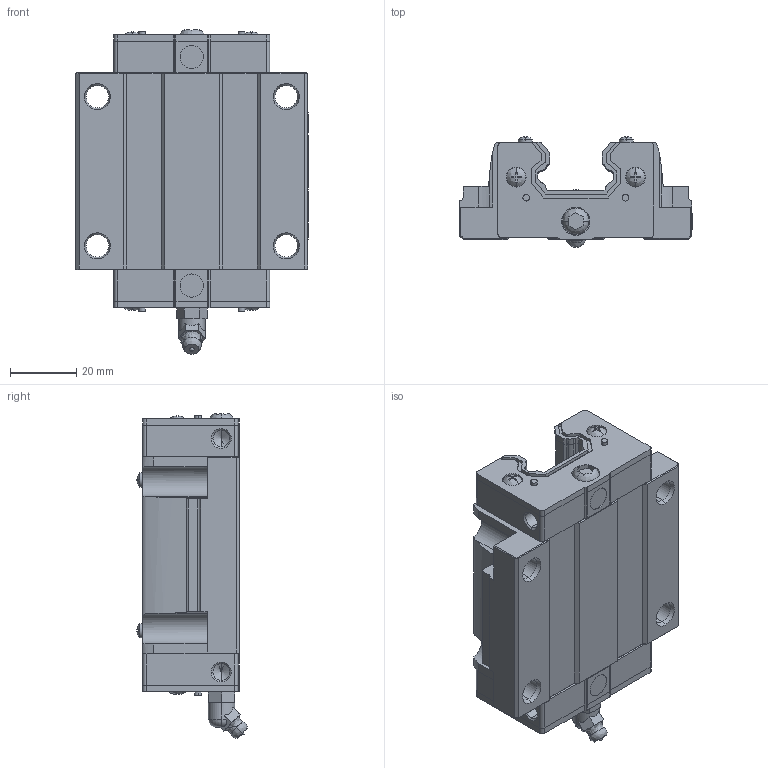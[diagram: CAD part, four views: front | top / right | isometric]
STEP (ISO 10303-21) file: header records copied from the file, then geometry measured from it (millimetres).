
FILE_DESCRIPTION (( 'STEP AP214' ), '1' );
FILE_NAME ('TRH25-A_HGW25CA.STEP', '2020-10-08T09:56:03', ( '' ), ( '' ), 'SwSTEP 2.0', 'SolidWorks 2018', '' );
FILE_SCHEMA (( 'AUTOMOTIVE_DESIGN' ));
Length unit declared in the file: millimetre
Products named in the file (8): TRH25-A_HGW25CA-4; TRH25-A_HGW25CA-7_M3*4; TRH25-A_HGW25CA-6_M3*4; TRH25-A_HGW25CA-5_M3*4; TRH25-A_HGW25CA-1; TRH25-A_HGW25CA-2; TRH25-A_HGW25CA-3; TRH25-A_HGW25CA
Assembly tree (17 placements, depth 2):
  TRH25-A_HGW25CA
    TRH25-A_HGW25CA-3  x2
    TRH25-A_HGW25CA-2  x2
    TRH25-A_HGW25CA-1
    TRH25-A_HGW25CA-5_M3*4  x6
    TRH25-A_HGW25CA-6_M3*4  x4
    TRH25-A_HGW25CA-7_M3*4
    TRH25-A_HGW25CA-4
Bounding box: 70.1 x 33.32 x 97.92 mm (x, y, z)
Volume: 102169.3 mm3; surface area: 37407.3 mm2
Topology: 18 solids, 18 shells, 1061 faces, 2790 edges, 1799 vertices
Faces by surface type: plane 606, cylinder 272, bspline 78, cone 66, torus 25, sphere 14
Entity records: 26841 total; most frequent: CARTESIAN_POINT 6591, ORIENTED_EDGE 3532, DIRECTION 3247, EDGE_CURVE 1766, VECTOR 1213, LINE 1213, VERTEX_POINT 1148, AXIS2_PLACEMENT_3D 1017
